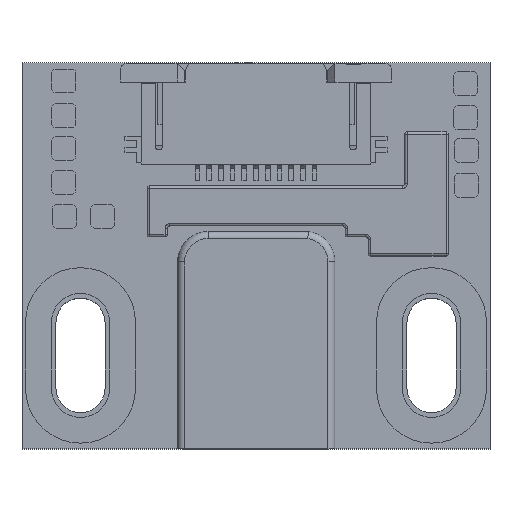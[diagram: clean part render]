
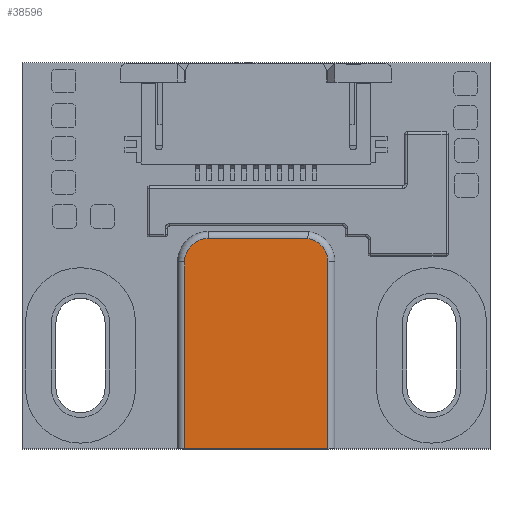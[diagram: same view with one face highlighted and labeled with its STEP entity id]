
A CAD part, top view. The second image highlights one B-rep face of the part: STEP entity #38596.
In plain terms, the highlighted planar face has unit normal (0, 0, 1).
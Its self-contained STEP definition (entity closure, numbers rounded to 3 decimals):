
#647 = VERTEX_POINT ( 'NONE', #33974 ) ;
#934 = EDGE_CURVE ( 'NONE', #647, #38347, #14450, .T. ) ;
#1716 = CIRCLE ( 'NONE', #6723, 1. ) ;
#2071 = CARTESIAN_POINT ( 'NONE',  ( 5.45, 1.775, 1.013 ) ) ;
#2898 = CARTESIAN_POINT ( 'NONE',  ( 5.75, 1.775, 1.013 ) ) ;
#3684 = VECTOR ( 'NONE', #23980, 1000. ) ;
#4339 = CARTESIAN_POINT ( 'NONE',  ( 11.873, 1.775, 1.013 ) ) ;
#6398 = CARTESIAN_POINT ( 'NONE',  ( 5.75, 9.765, 1.013 ) ) ;
#6489 = CARTESIAN_POINT ( 'NONE',  ( 10.873, 9.775, 1.013 ) ) ;
#6723 = AXIS2_PLACEMENT_3D ( 'NONE', #37522, #10777, #7631 ) ;
#7631 = DIRECTION ( 'NONE',  ( 0., 1., 0. ) ) ;
#7935 = CARTESIAN_POINT ( 'NONE',  ( 6.75, 10.765, 1.013 ) ) ;
#8234 = VERTEX_POINT ( 'NONE', #23620 ) ;
#8748 = DIRECTION ( 'NONE',  ( 1., 0., 0. ) ) ;
#8936 = EDGE_CURVE ( 'NONE', #38347, #41695, #11300, .T. ) ;
#8980 = LINE ( 'NONE', #33750, #13834 ) ;
#10777 = DIRECTION ( 'NONE',  ( 0., 0., 1. ) ) ;
#11300 = LINE ( 'NONE', #7935, #25825 ) ;
#12391 = EDGE_CURVE ( 'NONE', #27707, #647, #8980, .T. ) ;
#12823 = PLANE ( 'NONE',  #24521 ) ;
#13251 = EDGE_CURVE ( 'NONE', #41695, #8234, #1716, .T. ) ;
#13834 = VECTOR ( 'NONE', #43798, 1000. ) ;
#14071 = ORIENTED_EDGE ( 'NONE', *, *, #12391, .T. ) ;
#14450 = CIRCLE ( 'NONE', #36531, 1. ) ;
#15223 = VERTEX_POINT ( 'NONE', #2898 ) ;
#16263 = ORIENTED_EDGE ( 'NONE', *, *, #20511, .T. ) ;
#16553 = DIRECTION ( 'NONE',  ( 0., 1., 0. ) ) ;
#17863 = VECTOR ( 'NONE', #8748, 1000. ) ;
#17866 = ORIENTED_EDGE ( 'NONE', *, *, #13251, .T. ) ;
#19025 = LINE ( 'NONE', #2071, #17863 ) ;
#19721 = DIRECTION ( 'NONE',  ( 0., 1., 0. ) ) ;
#19930 = ORIENTED_EDGE ( 'NONE', *, *, #31179, .T. ) ;
#20511 = EDGE_CURVE ( 'NONE', #15223, #27707, #19025, .T. ) ;
#22606 = ORIENTED_EDGE ( 'NONE', *, *, #8936, .T. ) ;
#23620 = CARTESIAN_POINT ( 'NONE',  ( 5.75, 9.765, 1.013 ) ) ;
#23980 = DIRECTION ( 'NONE',  ( 0., -1., 0. ) ) ;
#24521 = AXIS2_PLACEMENT_3D ( 'NONE', #33103, #40690, #19721 ) ;
#25825 = VECTOR ( 'NONE', #42054, 1000. ) ;
#26601 = FACE_OUTER_BOUND ( 'NONE', #40754, .T. ) ;
#27448 = CARTESIAN_POINT ( 'NONE',  ( 6.75, 10.765, 1.013 ) ) ;
#27707 = VERTEX_POINT ( 'NONE', #4339 ) ;
#31179 = EDGE_CURVE ( 'NONE', #8234, #15223, #36943, .T. ) ;
#33103 = CARTESIAN_POINT ( 'NONE',  ( 6.75, 9.765, 1.013 ) ) ;
#33750 = CARTESIAN_POINT ( 'NONE',  ( 11.873, 9.765, 1.013 ) ) ;
#33974 = CARTESIAN_POINT ( 'NONE',  ( 11.873, 9.775, 1.013 ) ) ;
#36531 = AXIS2_PLACEMENT_3D ( 'NONE', #6489, #43519, #16553 ) ;
#36745 = ORIENTED_EDGE ( 'NONE', *, *, #934, .T. ) ;
#36943 = LINE ( 'NONE', #6398, #3684 ) ;
#37522 = CARTESIAN_POINT ( 'NONE',  ( 6.75, 9.765, 1.013 ) ) ;
#38347 = VERTEX_POINT ( 'NONE', #41937 ) ;
#38596 = ADVANCED_FACE ( 'NONE', ( #26601 ), #12823, .F. ) ;
#40690 = DIRECTION ( 'NONE',  ( 0., 0., -1. ) ) ;
#40754 = EDGE_LOOP ( 'NONE', ( #17866, #19930, #16263, #14071, #36745, #22606 ) ) ;
#41695 = VERTEX_POINT ( 'NONE', #27448 ) ;
#41937 = CARTESIAN_POINT ( 'NONE',  ( 11.015, 10.765, 1.013 ) ) ;
#42054 = DIRECTION ( 'NONE',  ( -1., 0., 0. ) ) ;
#43519 = DIRECTION ( 'NONE',  ( 0., 0., 1. ) ) ;
#43798 = DIRECTION ( 'NONE',  ( 0., 1., 0. ) ) ;
